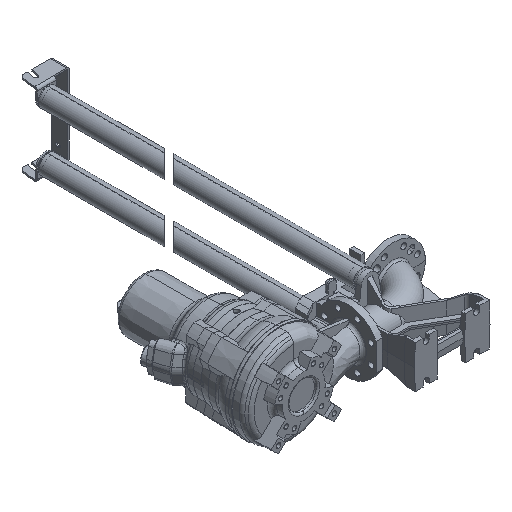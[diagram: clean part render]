
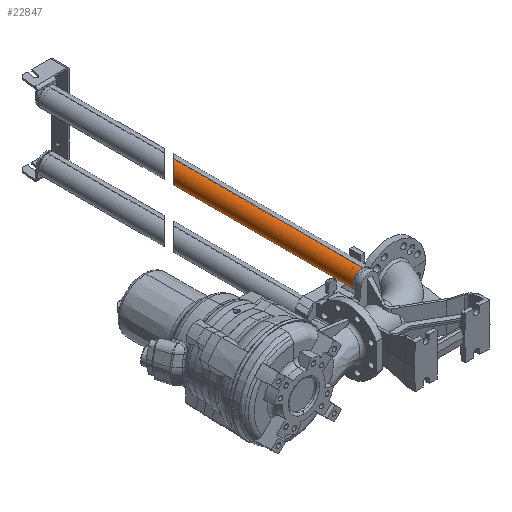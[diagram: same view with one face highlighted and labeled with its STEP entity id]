
A CAD part, isometric view. The second image highlights one B-rep face of the part: STEP entity #22847.
In plain terms, the highlighted cylindrical face has radius 30.15 mm (diameter 60.3 mm), a partial arc.
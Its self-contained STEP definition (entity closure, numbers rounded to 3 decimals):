
#924 = EDGE_CURVE ( 'NONE', #39093, #36105, #5033, .T. ) ;
#1294 = VERTEX_POINT ( 'NONE', #3751 ) ;
#2199 = DIRECTION ( 'NONE',  ( 0., -1., 0. ) ) ;
#3751 = CARTESIAN_POINT ( 'NONE',  ( 323.5, -86.029, 122.65 ) ) ;
#4489 = CARTESIAN_POINT ( 'NONE',  ( 323.5, -86.029, 62.35 ) ) ;
#4868 = ORIENTED_EDGE ( 'NONE', *, *, #31994, .F. ) ;
#5033 =( BOUNDED_CURVE ( )  B_SPLINE_CURVE ( 3, ( #7066, #13202, #12789, #22591 ),
 .UNSPECIFIED., .F., .F. ) 
 B_SPLINE_CURVE_WITH_KNOTS ( ( 4, 4 ),
 ( 4.712, 7.854 ),
 .UNSPECIFIED. ) 
 CURVE ( )  GEOMETRIC_REPRESENTATION_ITEM ( )  RATIONAL_B_SPLINE_CURVE ( ( 1., 0.333, 0.333, 1. ) ) 
 REPRESENTATION_ITEM ( '' )  );
#6427 = EDGE_CURVE ( 'NONE', #36105, #8759, #13017, .T. ) ;
#6674 = ORIENTED_EDGE ( 'NONE', *, *, #7850, .F. ) ;
#7066 = CARTESIAN_POINT ( 'NONE',  ( 323.5, 514.53, 122.65 ) ) ;
#7850 = EDGE_CURVE ( 'NONE', #1294, #8759, #20603, .T. ) ;
#8759 = VERTEX_POINT ( 'NONE', #4489 ) ;
#10014 = EDGE_LOOP ( 'NONE', ( #4868, #12573, #36617, #6674 ) ) ;
#11022 = CARTESIAN_POINT ( 'NONE',  ( 323.5, -66.029, 122.65 ) ) ;
#12407 = DIRECTION ( 'NONE',  ( 0., 0., -1. ) ) ;
#12573 = ORIENTED_EDGE ( 'NONE', *, *, #924, .T. ) ;
#12789 = CARTESIAN_POINT ( 'NONE',  ( 263.2, 454.23, 62.35 ) ) ;
#13017 = LINE ( 'NONE', #38269, #17071 ) ;
#13202 = CARTESIAN_POINT ( 'NONE',  ( 263.2, 454.23, 122.65 ) ) ;
#14108 = DIRECTION ( 'NONE',  ( 0., -1., 0. ) ) ;
#14304 = DIRECTION ( 'NONE',  ( 0., 0., -1. ) ) ;
#14704 = FACE_OUTER_BOUND ( 'NONE', #10014, .T. ) ;
#14729 = AXIS2_PLACEMENT_3D ( 'NONE', #15489, #2199, #12407 ) ;
#14849 = AXIS2_PLACEMENT_3D ( 'NONE', #23273, #14108, #14304 ) ;
#15489 = CARTESIAN_POINT ( 'NONE',  ( 323.5, -86.029, 92.5 ) ) ;
#17071 = VECTOR ( 'NONE', #32316, 1000. ) ;
#18438 = VECTOR ( 'NONE', #32781, 1000. ) ;
#20603 = CIRCLE ( 'NONE', #14729, 30.15 ) ;
#22591 = CARTESIAN_POINT ( 'NONE',  ( 323.5, 514.53, 62.35 ) ) ;
#22847 = ADVANCED_FACE ( 'NONE', ( #14704 ), #26524, .T. ) ;
#23273 = CARTESIAN_POINT ( 'NONE',  ( 323.5, -66.029, 92.5 ) ) ;
#26524 = CYLINDRICAL_SURFACE ( 'NONE', #14849, 30.15 ) ;
#28546 = CARTESIAN_POINT ( 'NONE',  ( 323.5, 514.53, 62.35 ) ) ;
#29716 = LINE ( 'NONE', #11022, #18438 ) ;
#31994 = EDGE_CURVE ( 'NONE', #39093, #1294, #29716, .T. ) ;
#32316 = DIRECTION ( 'NONE',  ( 0., -1., 0. ) ) ;
#32781 = DIRECTION ( 'NONE',  ( 0., -1., 0. ) ) ;
#33633 = CARTESIAN_POINT ( 'NONE',  ( 323.5, 514.53, 122.65 ) ) ;
#36105 = VERTEX_POINT ( 'NONE', #28546 ) ;
#36617 = ORIENTED_EDGE ( 'NONE', *, *, #6427, .T. ) ;
#38269 = CARTESIAN_POINT ( 'NONE',  ( 323.5, -66.029, 62.35 ) ) ;
#39093 = VERTEX_POINT ( 'NONE', #33633 ) ;
